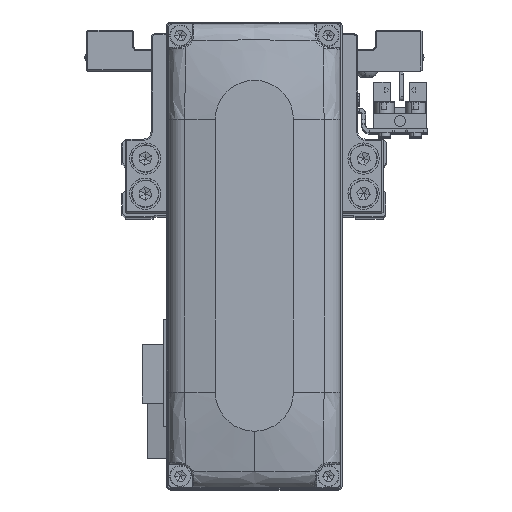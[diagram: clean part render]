
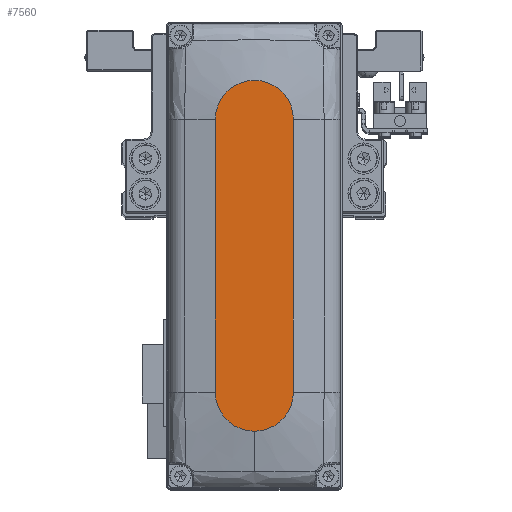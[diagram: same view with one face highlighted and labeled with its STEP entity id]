
A CAD part, top view. The second image highlights one B-rep face of the part: STEP entity #7560.
In plain terms, the highlighted planar face has unit normal (0, 0, 1).
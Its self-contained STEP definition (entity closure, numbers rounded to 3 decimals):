
#7 = ORIENTED_EDGE ( 'NONE', *, *, #15453, .T. ) ;
#532 = CARTESIAN_POINT ( 'NONE',  ( -35., 0., 28. ) ) ;
#1470 = CARTESIAN_POINT ( 'NONE',  ( -35., 10., 28. ) ) ;
#2404 = EDGE_CURVE ( 'NONE', #31574, #27898, #8393, .T. ) ;
#3020 = CARTESIAN_POINT ( 'NONE',  ( 35., -10., 28. ) ) ;
#3622 = AXIS2_PLACEMENT_3D ( 'NONE', #37523, #11135, #22901 ) ;
#4852 = DIRECTION ( 'NONE',  ( 1., 0., 0. ) ) ;
#5615 = ORIENTED_EDGE ( 'NONE', *, *, #13650, .T. ) ;
#5944 = LINE ( 'NONE', #17740, #9782 ) ;
#7328 = AXIS2_PLACEMENT_3D ( 'NONE', #10697, #22460, #34203 ) ;
#7560 = ADVANCED_FACE ( 'NONE', ( #34169 ), #7749, .T. ) ;
#7749 = PLANE ( 'NONE',  #20916 ) ;
#8393 = LINE ( 'NONE', #20182, #10171 ) ;
#9555 = AXIS2_PLACEMENT_3D ( 'NONE', #532, #12347, #24104 ) ;
#9782 = VECTOR ( 'NONE', #29498, 1000. ) ;
#10171 = VECTOR ( 'NONE', #31930, 1000. ) ;
#10618 = CARTESIAN_POINT ( 'NONE',  ( 45., 0., 28. ) ) ;
#10697 = CARTESIAN_POINT ( 'NONE',  ( 35., 0., 28. ) ) ;
#11135 = DIRECTION ( 'NONE',  ( 0., 0., 1. ) ) ;
#11560 = EDGE_CURVE ( 'NONE', #21742, #33623, #5944, .T. ) ;
#11731 = CARTESIAN_POINT ( 'NONE',  ( -35., -10., 28. ) ) ;
#12347 = DIRECTION ( 'NONE',  ( 0., 0., 1. ) ) ;
#13650 = EDGE_CURVE ( 'NONE', #16431, #31574, #20279, .T. ) ;
#15453 = EDGE_CURVE ( 'NONE', #33623, #16431, #23993, .T. ) ;
#16431 = VERTEX_POINT ( 'NONE', #10618 ) ;
#17740 = CARTESIAN_POINT ( 'NONE',  ( -35., -10., 28. ) ) ;
#19526 = CARTESIAN_POINT ( 'NONE',  ( 0., 0., 28. ) ) ;
#20182 = CARTESIAN_POINT ( 'NONE',  ( -35., 10., 28. ) ) ;
#20279 = CIRCLE ( 'NONE', #3622, 10. ) ;
#20916 = AXIS2_PLACEMENT_3D ( 'NONE', #19526, #31274, #4852 ) ;
#21742 = VERTEX_POINT ( 'NONE', #11731 ) ;
#22460 = DIRECTION ( 'NONE',  ( 0., 0., 1. ) ) ;
#22853 = ORIENTED_EDGE ( 'NONE', *, *, #11560, .T. ) ;
#22901 = DIRECTION ( 'NONE',  ( 1., 0., 0. ) ) ;
#23993 = CIRCLE ( 'NONE', #7328, 10. ) ;
#24104 = DIRECTION ( 'NONE',  ( 1., 0., 0. ) ) ;
#26002 = EDGE_CURVE ( 'NONE', #27898, #21742, #26184, .T. ) ;
#26184 = CIRCLE ( 'NONE', #9555, 10. ) ;
#27898 = VERTEX_POINT ( 'NONE', #1470 ) ;
#29498 = DIRECTION ( 'NONE',  ( 1., 0., 0. ) ) ;
#29907 = EDGE_LOOP ( 'NONE', ( #30351, #31837, #22853, #7, #5615 ) ) ;
#30112 = CARTESIAN_POINT ( 'NONE',  ( 35., 10., 28. ) ) ;
#30351 = ORIENTED_EDGE ( 'NONE', *, *, #2404, .T. ) ;
#31274 = DIRECTION ( 'NONE',  ( 0., 0., 1. ) ) ;
#31574 = VERTEX_POINT ( 'NONE', #30112 ) ;
#31837 = ORIENTED_EDGE ( 'NONE', *, *, #26002, .T. ) ;
#31930 = DIRECTION ( 'NONE',  ( -1., 0., 0. ) ) ;
#33623 = VERTEX_POINT ( 'NONE', #3020 ) ;
#34169 = FACE_OUTER_BOUND ( 'NONE', #29907, .T. ) ;
#34203 = DIRECTION ( 'NONE',  ( 1., 0., 0. ) ) ;
#37523 = CARTESIAN_POINT ( 'NONE',  ( 35., 0., 28. ) ) ;
